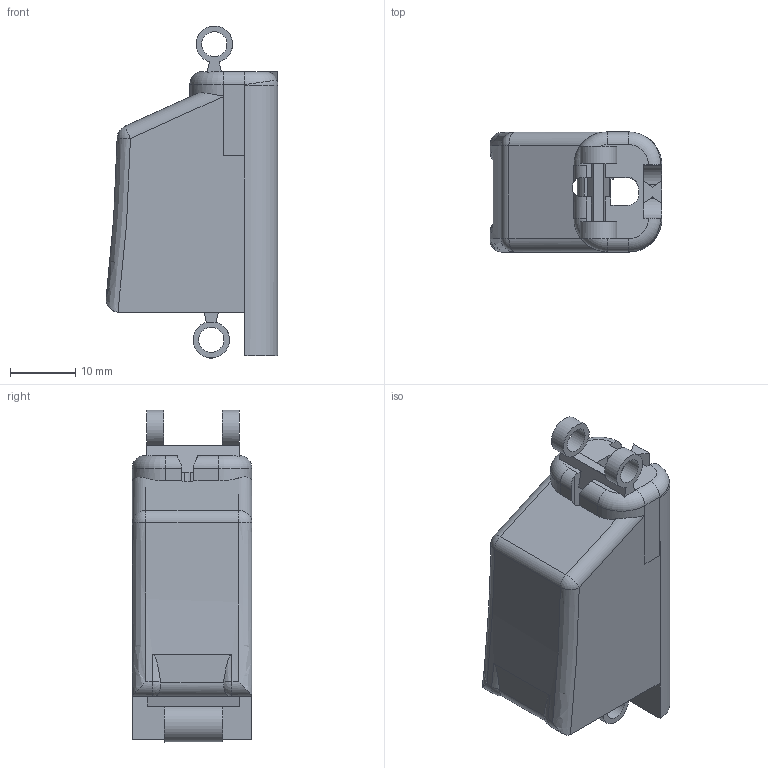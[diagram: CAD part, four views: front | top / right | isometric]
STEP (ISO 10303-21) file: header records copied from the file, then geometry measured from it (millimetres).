
FILE_DESCRIPTION(/* description */ ('STEP AP242 Edition 2','CAx-IF Rec.Pracs.---Representation and Presentation of Product Manufacturing Information (PMI)---4.0---2014-10-13','CAx-IF Rec.Pracs.---3D Tessellated Geometry---0.4---2014-09-14','2;1','CAx-IF Rec.Pracs.---User Defined Attributes---1.5---2016-08-15'),/* implementation_level */ '2;1');
FILE_NAME(/* name */ 'Assembly 1 - Poi Mih',/* time_stamp */ '2026-06-19T18:21:09Z',/* author */ (''),/* organization */ (''),/* preprocessor_version */ 'ST-DEVELOPER v20',/* originating_system */ 'ONSHAPE BY PTC INC, 1.216',/* authorisation */ ' ');
FILE_SCHEMA (('AP242_MANAGED_MODEL_BASED_3D_ENGINEERING_MIM_LF { 1 0 10303 442 3 1 4 }'));
Length unit declared in the file: metre
Products named in the file (1): Poi Mih
Bounding box: 26.42 x 18.41 x 51.04 mm (x, y, z)
Volume: 14504 mm3; surface area: 5563.6 mm2
Topology: 1 solids, 1 shells, 121 faces, 343 edges, 217 vertices
Faces by surface type: plane 65, cylinder 37, torus 6, bspline 5, sphere 4, cone 4
Full cylindrical faces by diameter (mm): 3.865 x3
Entity records: 4031 total; most frequent: CARTESIAN_POINT 890, ORIENTED_EDGE 672, DIRECTION 631, EDGE_CURVE 336, VERTEX_POINT 217, AXIS2_PLACEMENT_3D 212, LINE 207, VECTOR 207
